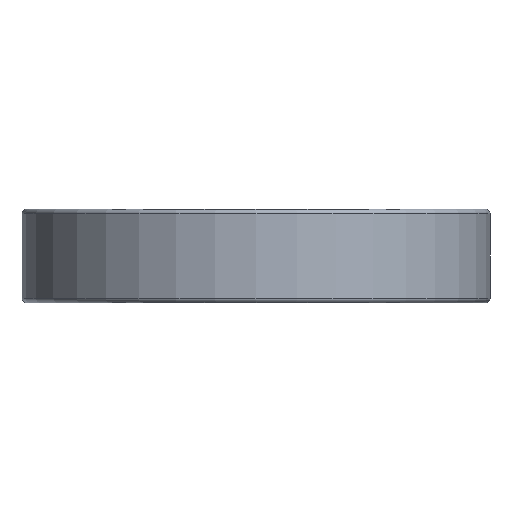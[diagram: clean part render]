
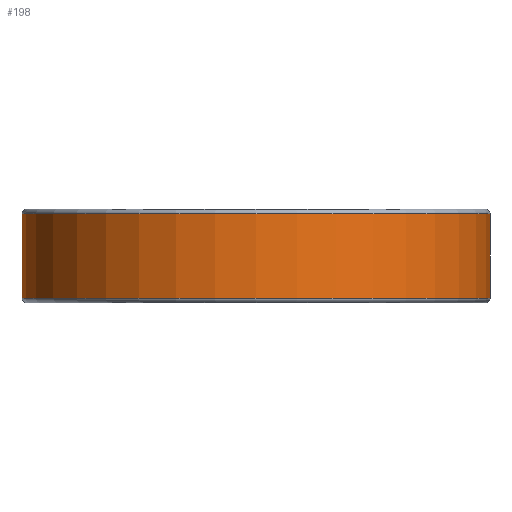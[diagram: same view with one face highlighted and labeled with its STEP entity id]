
A CAD part, front view. The second image highlights one B-rep face of the part: STEP entity #198.
In plain terms, the highlighted cylindrical face has radius 27.5 mm (diameter 55 mm), a full revolution.
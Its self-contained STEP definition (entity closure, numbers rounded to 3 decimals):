
#26=LINE('',#356,#34);
#34=VECTOR('',#281,27.5);
#42=CYLINDRICAL_SURFACE('',#239,27.5);
#46=FACE_OUTER_BOUND('',#61,.T.);
#61=EDGE_LOOP('',(#143,#144,#145,#146));
#80=CIRCLE('',#238,27.5);
#81=CIRCLE('',#240,27.5);
#98=VERTEX_POINT('',#351);
#99=VERTEX_POINT('',#355);
#114=EDGE_CURVE('',#98,#98,#80,.T.);
#115=EDGE_CURVE('',#98,#99,#26,.T.);
#116=EDGE_CURVE('',#99,#99,#81,.T.);
#143=ORIENTED_EDGE('',*,*,#114,.F.);
#144=ORIENTED_EDGE('',*,*,#115,.T.);
#145=ORIENTED_EDGE('',*,*,#116,.F.);
#146=ORIENTED_EDGE('',*,*,#115,.F.);
#198=ADVANCED_FACE('',(#46),#42,.T.);
#238=AXIS2_PLACEMENT_3D('',#353,#277,#278);
#239=AXIS2_PLACEMENT_3D('',#354,#279,#280);
#240=AXIS2_PLACEMENT_3D('',#357,#282,#283);
#277=DIRECTION('center_axis',(0.,0.,-1.));
#278=DIRECTION('ref_axis',(1.,0.,0.));
#279=DIRECTION('center_axis',(0.,0.,-1.));
#280=DIRECTION('ref_axis',(-1.,0.,0.));
#281=DIRECTION('',(0.,0.,1.));
#282=DIRECTION('center_axis',(0.,0.,1.));
#283=DIRECTION('ref_axis',(1.,0.,0.));
#351=CARTESIAN_POINT('',(27.5,0.,-10.45));
#353=CARTESIAN_POINT('Origin',(0.,0.,-10.45));
#354=CARTESIAN_POINT('Origin',(0.,0.,-5.5));
#355=CARTESIAN_POINT('',(27.5,0.,-0.55));
#356=CARTESIAN_POINT('',(27.5,0.,-5.5));
#357=CARTESIAN_POINT('Origin',(0.,0.,-0.55));
